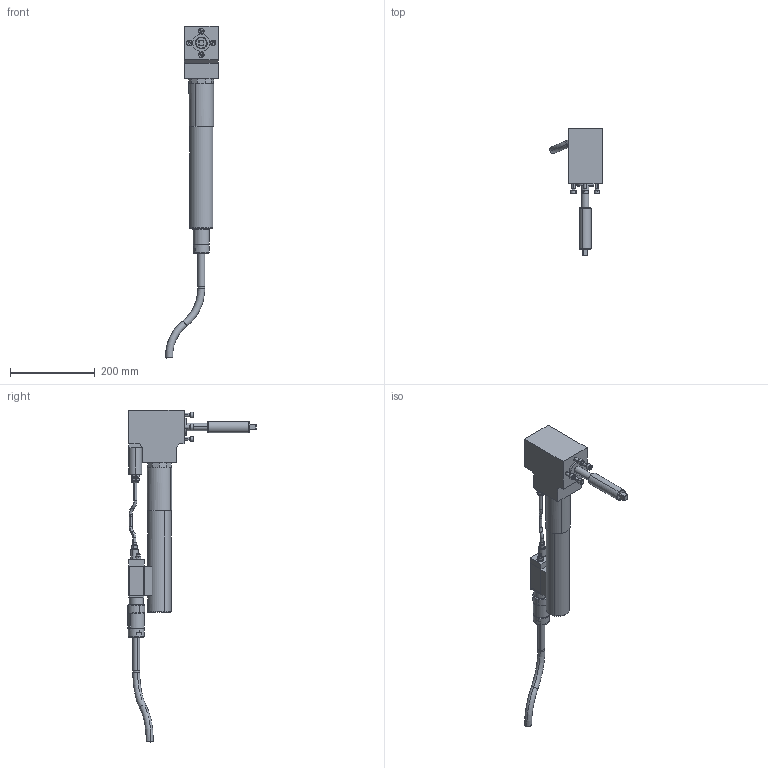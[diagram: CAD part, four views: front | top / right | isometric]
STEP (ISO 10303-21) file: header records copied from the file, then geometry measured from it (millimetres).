
FILE_DESCRIPTION(('CATIA V5 STEP Exchange'),'2;1');
FILE_NAME('C:\pro\7920319_ECR220_AWD250-200_AllCATPart.stp','2008-11-10T09:31:07+00:00',('none'),('none'),'CATIA Version 5 Release 17 (IN-10)','CATIA V5 STEP AP203','none');
FILE_SCHEMA(('CONFIG_CONTROL_DESIGN'));
Length unit declared in the file: millimetre
Products named in the file (1): 7920319_ECR220_AWD250-200_AllCATPart
Bounding box: 123.82 x 302.98 x 784.16 mm (x, y, z)
Volume: 2506230.3 mm3; surface area: 239226.5 mm2
Topology: 18 solids, 18 shells, 425 faces, 939 edges, 578 vertices
Faces by surface type: plane 193, cylinder 140, cone 50, torus 42
Entity records: 10873 total; most frequent: CARTESIAN_POINT 2163, ORIENTED_EDGE 1854, DIRECTION 1493, EDGE_CURVE 927, AXIS2_PLACEMENT_3D 724, VERTEX_POINT 578, VECTOR 467, LINE 467
